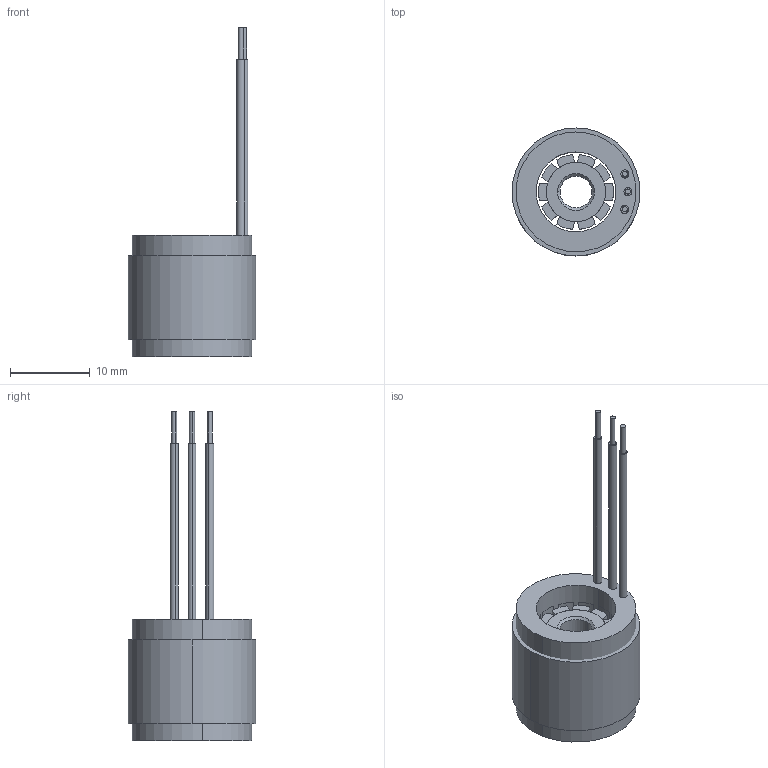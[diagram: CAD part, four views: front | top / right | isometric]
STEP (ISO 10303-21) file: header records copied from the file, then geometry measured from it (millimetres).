
FILE_DESCRIPTION (( 'STEP AP203' ), '1' );
FILE_NAME ('1615萇儂.STEP', '2025-05-10T08:19:11', ( '' ), ( '' ), 'SwSTEP 2.0', 'SolidWorks 2023', '' );
FILE_SCHEMA (( 'CONFIG_CONTROL_DESIGN' ));
Length unit declared in the file: millimetre
Products named in the file (8): 1615轴0; 1615磁铁0; AWG26线黑; 1615胶; 1615电机; 1615线圈; 1615内绕铁心涂覆; 1615转子-1
Assembly tree (29 placements, depth 3):
  1615电机
    1615内绕铁心涂覆
    1615线圈  x12
    1615胶
    1615转子-1
      1615轴0
      1615磁铁0  x10
    AWG26线黑  x3
Bounding box: 16 x 16 x 41.2 mm (x, y, z)
Volume: 3427.3 mm3; surface area: 6393.8 mm2
Topology: 28 solids, 28 shells, 423 faces, 1079 edges, 718 vertices
Faces by surface type: plane 250, cylinder 169, cone 4
Entity records: 6309 total; most frequent: DIRECTION 881, CARTESIAN_POINT 861, ORIENTED_EDGE 814, EDGE_CURVE 407, VECTOR 301, LINE 301, AXIS2_PLACEMENT_3D 290, VERTEX_POINT 270
